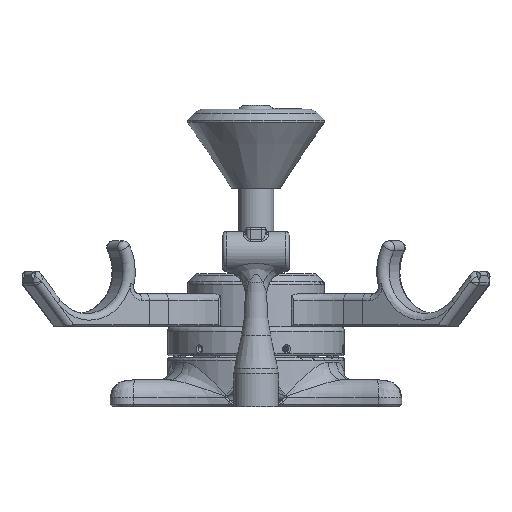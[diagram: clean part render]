
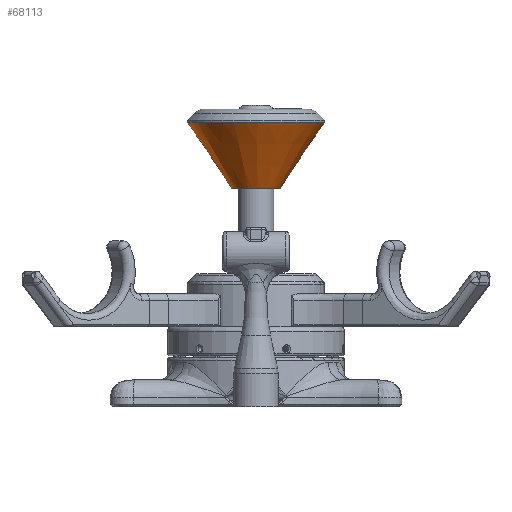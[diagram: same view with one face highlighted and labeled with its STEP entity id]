
A CAD part, front view. The second image highlights one B-rep face of the part: STEP entity #68113.
In plain terms, the highlighted conical face has half-angle 34 degrees and reference radius 31 mm.
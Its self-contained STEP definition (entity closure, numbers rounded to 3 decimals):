
#252=FACE_BOUND('',#18664,.T.);
#507=CONICAL_SURFACE('',#71249,31.,0.593);
#14836=FACE_OUTER_BOUND('',#18663,.T.);
#18663=EDGE_LOOP('',(#50609));
#18664=EDGE_LOOP('',(#50610));
#21385=CIRCLE('',#71250,10.913);
#21386=CIRCLE('',#71251,31.);
#28971=VERTEX_POINT('',#110987);
#28972=VERTEX_POINT('',#110989);
#36875=EDGE_CURVE('',#28971,#28971,#21385,.T.);
#36876=EDGE_CURVE('',#28972,#28972,#21386,.T.);
#50609=ORIENTED_EDGE('',*,*,#36875,.T.);
#50610=ORIENTED_EDGE('',*,*,#36876,.F.);
#68113=ADVANCED_FACE('',(#14836,#252),#507,.T.);
#71249=AXIS2_PLACEMENT_3D('',#110986,#76027,#76028);
#71250=AXIS2_PLACEMENT_3D('',#110988,#76029,#76030);
#71251=AXIS2_PLACEMENT_3D('',#110990,#76031,#76032);
#76027=DIRECTION('center_axis',(0.,0.,-1.));
#76028=DIRECTION('ref_axis',(1.,0.,0.));
#76029=DIRECTION('center_axis',(0.,0.,-1.));
#76030=DIRECTION('ref_axis',(-1.,0.,0.));
#76031=DIRECTION('center_axis',(0.,0.,-1.));
#76032=DIRECTION('ref_axis',(-1.,0.,0.));
#110986=CARTESIAN_POINT('Origin',(0.,0.,0.));
#110987=CARTESIAN_POINT('',(-10.913,0.,29.78));
#110988=CARTESIAN_POINT('Origin',(0.,0.,29.78));
#110989=CARTESIAN_POINT('',(-31.,0.,0.));
#110990=CARTESIAN_POINT('Origin',(0.,0.,0.));
